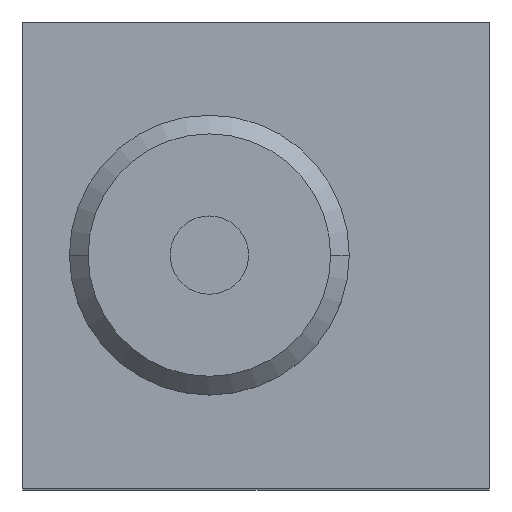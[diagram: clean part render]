
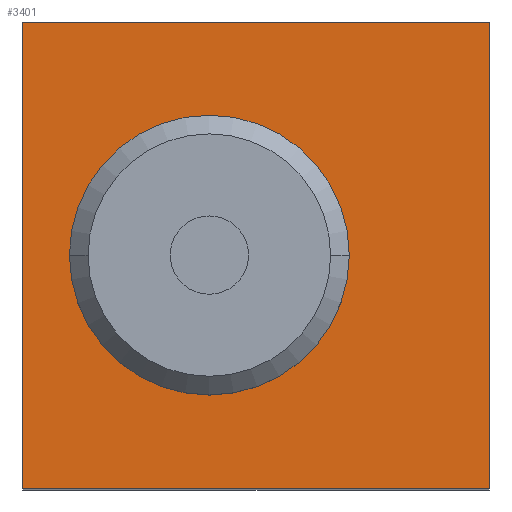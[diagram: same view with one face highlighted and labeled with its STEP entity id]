
A CAD part, top view. The second image highlights one B-rep face of the part: STEP entity #3401.
In plain terms, the highlighted planar face has unit normal (0, 0, 1).
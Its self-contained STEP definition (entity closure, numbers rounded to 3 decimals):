
#31 = CARTESIAN_POINT ( 'NONE',  ( 15., -12.5, 50. ) ) ;
#92 = EDGE_LOOP ( 'NONE', ( #3533, #4806 ) ) ;
#197 = PLANE ( 'NONE',  #879 ) ;
#198 = VERTEX_POINT ( 'NONE', #2039 ) ;
#220 = AXIS2_PLACEMENT_3D ( 'NONE', #2677, #4371, #955 ) ;
#238 = FACE_BOUND ( 'NONE', #92, .T. ) ;
#271 = ORIENTED_EDGE ( 'NONE', *, *, #895, .F. ) ;
#343 = CARTESIAN_POINT ( 'NONE',  ( 15., 12.5, 50. ) ) ;
#520 = EDGE_CURVE ( 'NONE', #2003, #757, #3759, .T. ) ;
#619 = EDGE_CURVE ( 'NONE', #198, #5189, #3428, .T. ) ;
#623 = VERTEX_POINT ( 'NONE', #1940 ) ;
#757 = VERTEX_POINT ( 'NONE', #2504 ) ;
#802 = VERTEX_POINT ( 'NONE', #343 ) ;
#879 = AXIS2_PLACEMENT_3D ( 'NONE', #1966, #2373, #1036 ) ;
#895 = EDGE_CURVE ( 'NONE', #802, #623, #1248, .T. ) ;
#955 = DIRECTION ( 'NONE',  ( 1., 0., 0. ) ) ;
#965 = VECTOR ( 'NONE', #5084, 1000. ) ;
#999 = ORIENTED_EDGE ( 'NONE', *, *, #3204, .F. ) ;
#1036 = DIRECTION ( 'NONE',  ( 1., 0., 0. ) ) ;
#1248 = LINE ( 'NONE', #3851, #3625 ) ;
#1255 = CARTESIAN_POINT ( 'NONE',  ( 0., 0., 50. ) ) ;
#1450 = CARTESIAN_POINT ( 'NONE',  ( -10., 0., 50. ) ) ;
#1700 = DIRECTION ( 'NONE',  ( 0., 0., -1. ) ) ;
#1940 = CARTESIAN_POINT ( 'NONE',  ( 15., -12.5, 50. ) ) ;
#1966 = CARTESIAN_POINT ( 'NONE',  ( 2.5, 0., 50. ) ) ;
#2003 = VERTEX_POINT ( 'NONE', #2586 ) ;
#2039 = CARTESIAN_POINT ( 'NONE',  ( -10., 12.5, 50. ) ) ;
#2223 = EDGE_LOOP ( 'NONE', ( #271, #999, #3289, #3649 ) ) ;
#2259 = EDGE_CURVE ( 'NONE', #757, #2003, #5480, .T. ) ;
#2373 = DIRECTION ( 'NONE',  ( 0., 0., 1. ) ) ;
#2504 = CARTESIAN_POINT ( 'NONE',  ( -7.5, 0., 50. ) ) ;
#2586 = CARTESIAN_POINT ( 'NONE',  ( 7.5, 0., 50. ) ) ;
#2677 = CARTESIAN_POINT ( 'NONE',  ( 0., 0., 50. ) ) ;
#2956 = DIRECTION ( 'NONE',  ( 1., 0., 0. ) ) ;
#3204 = EDGE_CURVE ( 'NONE', #198, #802, #3750, .T. ) ;
#3289 = ORIENTED_EDGE ( 'NONE', *, *, #619, .T. ) ;
#3352 = FACE_OUTER_BOUND ( 'NONE', #2223, .T. ) ;
#3401 = ADVANCED_FACE ( 'NONE', ( #3352, #238 ), #197, .T. ) ;
#3428 = LINE ( 'NONE', #1450, #3498 ) ;
#3498 = VECTOR ( 'NONE', #4817, 1000. ) ;
#3533 = ORIENTED_EDGE ( 'NONE', *, *, #520, .T. ) ;
#3625 = VECTOR ( 'NONE', #4666, 1000. ) ;
#3649 = ORIENTED_EDGE ( 'NONE', *, *, #4843, .F. ) ;
#3739 = AXIS2_PLACEMENT_3D ( 'NONE', #1255, #1700, #2956 ) ;
#3750 = LINE ( 'NONE', #3849, #3938 ) ;
#3759 = CIRCLE ( 'NONE', #220, 7.5 ) ;
#3849 = CARTESIAN_POINT ( 'NONE',  ( -10., 12.5, 50. ) ) ;
#3851 = CARTESIAN_POINT ( 'NONE',  ( 15., 12.5, 50. ) ) ;
#3938 = VECTOR ( 'NONE', #4363, 1000. ) ;
#4205 = LINE ( 'NONE', #31, #965 ) ;
#4363 = DIRECTION ( 'NONE',  ( 1., 0., 0. ) ) ;
#4371 = DIRECTION ( 'NONE',  ( 0., 0., -1. ) ) ;
#4516 = CARTESIAN_POINT ( 'NONE',  ( -10., -12.5, 50. ) ) ;
#4666 = DIRECTION ( 'NONE',  ( 0., -1., 0. ) ) ;
#4806 = ORIENTED_EDGE ( 'NONE', *, *, #2259, .T. ) ;
#4817 = DIRECTION ( 'NONE',  ( 0., -1., 0. ) ) ;
#4843 = EDGE_CURVE ( 'NONE', #623, #5189, #4205, .T. ) ;
#5084 = DIRECTION ( 'NONE',  ( -1., 0., 0. ) ) ;
#5189 = VERTEX_POINT ( 'NONE', #4516 ) ;
#5480 = CIRCLE ( 'NONE', #3739, 7.5 ) ;
